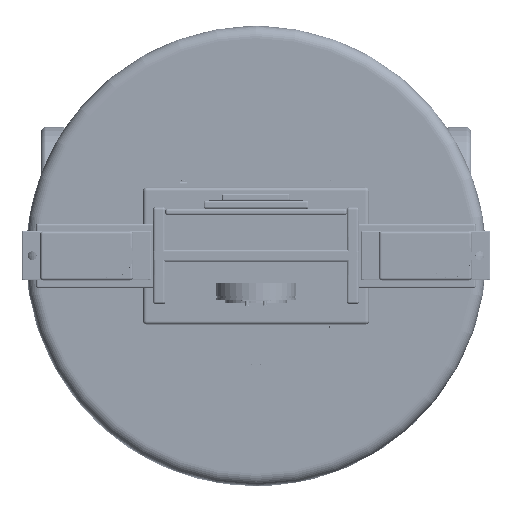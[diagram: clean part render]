
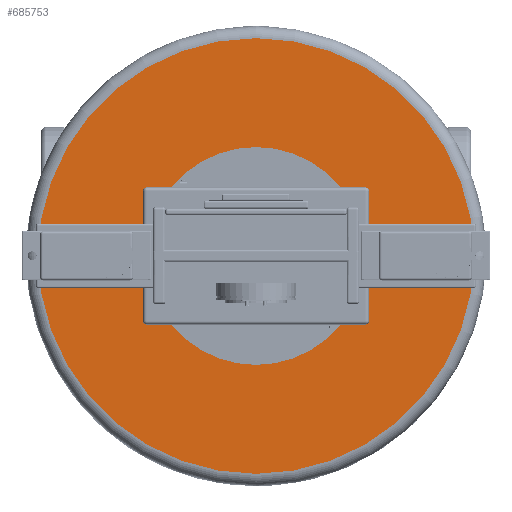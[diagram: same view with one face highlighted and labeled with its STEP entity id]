
A CAD part, top view. The second image highlights one B-rep face of the part: STEP entity #685753.
In plain terms, the highlighted planar face has unit normal (0, 0, 1).
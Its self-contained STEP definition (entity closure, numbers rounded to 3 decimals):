
#684050 = TOROIDAL_SURFACE('',#684051,54.,3.);
#684051 = AXIS2_PLACEMENT_3D('',#684052,#684053,#684054);
#684052 = CARTESIAN_POINT('',(0.,0.,46.));
#684053 = DIRECTION('',(0.,0.,1.));
#684054 = DIRECTION('',(1.,0.,-0.));
#684793 = VERTEX_POINT('',#684794);
#684794 = CARTESIAN_POINT('',(54.,0.,49.));
#684816 = EDGE_CURVE('',#684793,#684793,#684817,.T.);
#684817 = SURFACE_CURVE('',#684818,(#684823,#684830),.PCURVE_S1.);
#684818 = CIRCLE('',#684819,54.);
#684819 = AXIS2_PLACEMENT_3D('',#684820,#684821,#684822);
#684820 = CARTESIAN_POINT('',(0.,0.,49.));
#684821 = DIRECTION('',(0.,0.,1.));
#684822 = DIRECTION('',(1.,0.,-0.));
#684823 = PCURVE('',#684050,#684824);
#684824 = DEFINITIONAL_REPRESENTATION('',(#684825),#684829);
#684825 = LINE('',#684826,#684827);
#684826 = CARTESIAN_POINT('',(0.,1.571));
#684827 = VECTOR('',#684828,1.);
#684828 = DIRECTION('',(1.,0.));
#684829 = ( GEOMETRIC_REPRESENTATION_CONTEXT(2) 
PARAMETRIC_REPRESENTATION_CONTEXT() REPRESENTATION_CONTEXT('2D SPACE',''
  ) );
#684830 = PCURVE('',#684831,#684836);
#684831 = PLANE('',#684832);
#684832 = AXIS2_PLACEMENT_3D('',#684833,#684834,#684835);
#684833 = CARTESIAN_POINT('',(0.,0.,49.));
#684834 = DIRECTION('',(0.,0.,1.));
#684835 = DIRECTION('',(1.,0.,-0.));
#684836 = DEFINITIONAL_REPRESENTATION('',(#684837),#684841);
#684837 = CIRCLE('',#684838,54.);
#684838 = AXIS2_PLACEMENT_2D('',#684839,#684840);
#684839 = CARTESIAN_POINT('',(0.,0.));
#684840 = DIRECTION('',(1.,0.));
#684841 = ( GEOMETRIC_REPRESENTATION_CONTEXT(2) 
PARAMETRIC_REPRESENTATION_CONTEXT() REPRESENTATION_CONTEXT('2D SPACE',''
  ) );
#685753 = ADVANCED_FACE('',(#685754,#685757),#684831,.T.);
#685754 = FACE_BOUND('',#685755,.T.);
#685755 = EDGE_LOOP('',(#685756));
#685756 = ORIENTED_EDGE('',*,*,#684816,.T.);
#685757 = FACE_BOUND('',#685758,.T.);
#685758 = EDGE_LOOP('',(#685759));
#685759 = ORIENTED_EDGE('',*,*,#685760,.F.);
#685760 = EDGE_CURVE('',#685761,#685761,#685763,.T.);
#685761 = VERTEX_POINT('',#685762);
#685762 = CARTESIAN_POINT('',(27.,0.,49.));
#685763 = SURFACE_CURVE('',#685764,(#685769,#685776),.PCURVE_S1.);
#685764 = CIRCLE('',#685765,27.);
#685765 = AXIS2_PLACEMENT_3D('',#685766,#685767,#685768);
#685766 = CARTESIAN_POINT('',(0.,0.,49.));
#685767 = DIRECTION('',(0.,0.,1.));
#685768 = DIRECTION('',(1.,0.,-0.));
#685769 = PCURVE('',#684831,#685770);
#685770 = DEFINITIONAL_REPRESENTATION('',(#685771),#685775);
#685771 = CIRCLE('',#685772,27.);
#685772 = AXIS2_PLACEMENT_2D('',#685773,#685774);
#685773 = CARTESIAN_POINT('',(0.,0.));
#685774 = DIRECTION('',(1.,0.));
#685775 = ( GEOMETRIC_REPRESENTATION_CONTEXT(2) 
PARAMETRIC_REPRESENTATION_CONTEXT() REPRESENTATION_CONTEXT('2D SPACE',''
  ) );
#685776 = PCURVE('',#685777,#685782);
#685777 = CYLINDRICAL_SURFACE('',#685778,27.);
#685778 = AXIS2_PLACEMENT_3D('',#685779,#685780,#685781);
#685779 = CARTESIAN_POINT('',(0.,0.,49.));
#685780 = DIRECTION('',(0.,0.,1.));
#685781 = DIRECTION('',(1.,0.,-0.));
#685782 = DEFINITIONAL_REPRESENTATION('',(#685783),#685787);
#685783 = LINE('',#685784,#685785);
#685784 = CARTESIAN_POINT('',(0.,0.));
#685785 = VECTOR('',#685786,1.);
#685786 = DIRECTION('',(1.,0.));
#685787 = ( GEOMETRIC_REPRESENTATION_CONTEXT(2) 
PARAMETRIC_REPRESENTATION_CONTEXT() REPRESENTATION_CONTEXT('2D SPACE',''
  ) );
